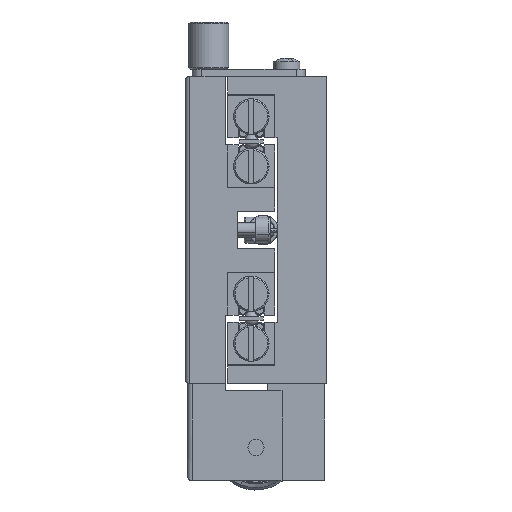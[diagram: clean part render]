
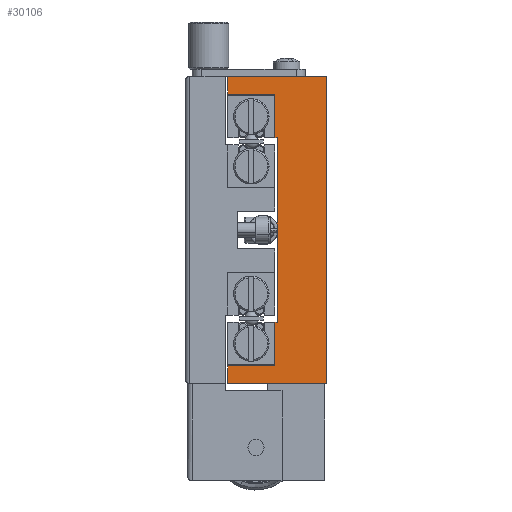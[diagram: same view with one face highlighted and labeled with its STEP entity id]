
A CAD part, left-side view. The second image highlights one B-rep face of the part: STEP entity #30106.
In plain terms, the highlighted planar face has unit normal (-1, 0, 0).
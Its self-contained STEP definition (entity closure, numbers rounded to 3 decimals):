
#45 = LINE ( 'NONE', #21529, #27171 ) ;
#585 = EDGE_CURVE ( 'NONE', #45673, #34249, #21678, .T. ) ;
#1328 = VECTOR ( 'NONE', #8041, 1000. ) ;
#1355 = CARTESIAN_POINT ( 'NONE',  ( -38.503, 10.95, 31.737 ) ) ;
#2199 = VECTOR ( 'NONE', #22217, 1000. ) ;
#2612 = DIRECTION ( 'NONE',  ( 0., 0., 1. ) ) ;
#3021 = LINE ( 'NONE', #26647, #8006 ) ;
#3150 = AXIS2_PLACEMENT_3D ( 'NONE', #41902, #14691, #7120 ) ;
#3721 = VECTOR ( 'NONE', #43308, 1000. ) ;
#4197 = EDGE_CURVE ( 'NONE', #15188, #45673, #3021, .T. ) ;
#5996 = EDGE_CURVE ( 'NONE', #34249, #16565, #13414, .T. ) ;
#6417 = VECTOR ( 'NONE', #32992, 1000. ) ;
#6447 = EDGE_CURVE ( 'NONE', #44148, #6780, #45, .T. ) ;
#6525 = PLANE ( 'NONE',  #3150 ) ;
#6780 = VERTEX_POINT ( 'NONE', #16567 ) ;
#7020 = VECTOR ( 'NONE', #41711, 1000. ) ;
#7103 = LINE ( 'NONE', #37740, #30362 ) ;
#7120 = DIRECTION ( 'NONE',  ( 0., 0., -1. ) ) ;
#7491 = CARTESIAN_POINT ( 'NONE',  ( -38.503, -0.05, -29.513 ) ) ;
#7629 = CARTESIAN_POINT ( 'NONE',  ( -38.503, 10.95, 31.737 ) ) ;
#7647 = LINE ( 'NONE', #7629, #3721 ) ;
#7680 = ORIENTED_EDGE ( 'NONE', *, *, #4197, .F. ) ;
#8006 = VECTOR ( 'NONE', #30223, 1000. ) ;
#8041 = DIRECTION ( 'NONE',  ( 0., -1., 0. ) ) ;
#8252 = VERTEX_POINT ( 'NONE', #33402 ) ;
#9280 = FACE_OUTER_BOUND ( 'NONE', #42018, .T. ) ;
#9949 = ORIENTED_EDGE ( 'NONE', *, *, #20999, .F. ) ;
#10415 = VECTOR ( 'NONE', #43833, 1000. ) ;
#10574 = VECTOR ( 'NONE', #35564, 1000. ) ;
#10864 = ORIENTED_EDGE ( 'NONE', *, *, #5996, .F. ) ;
#11290 = CARTESIAN_POINT ( 'NONE',  ( -38.503, 20.95, -29.513 ) ) ;
#11399 = CARTESIAN_POINT ( 'NONE',  ( -38.503, 10.95, 22.487 ) ) ;
#11522 = LINE ( 'NONE', #19127, #10415 ) ;
#11674 = CARTESIAN_POINT ( 'NONE',  ( -38.503, 10.95, -25.763 ) ) ;
#11766 = CARTESIAN_POINT ( 'NONE',  ( -38.503, 20.95, -29.513 ) ) ;
#11814 = CARTESIAN_POINT ( 'NONE',  ( -38.503, 10.95, -16.513 ) ) ;
#13391 = EDGE_CURVE ( 'NONE', #21051, #44148, #7647, .T. ) ;
#13414 = LINE ( 'NONE', #35781, #36620 ) ;
#14691 = DIRECTION ( 'NONE',  ( 1., 0., 0. ) ) ;
#14828 = EDGE_CURVE ( 'NONE', #45120, #32486, #34613, .T. ) ;
#14892 = ORIENTED_EDGE ( 'NONE', *, *, #41405, .F. ) ;
#15188 = VERTEX_POINT ( 'NONE', #27573 ) ;
#15887 = ORIENTED_EDGE ( 'NONE', *, *, #13391, .F. ) ;
#16565 = VERTEX_POINT ( 'NONE', #38209 ) ;
#16567 = CARTESIAN_POINT ( 'NONE',  ( -38.503, 20.95, 31.737 ) ) ;
#16753 = CARTESIAN_POINT ( 'NONE',  ( -38.503, 20.95, -29.513 ) ) ;
#18156 = DIRECTION ( 'NONE',  ( 0., -1., 0. ) ) ;
#19127 = CARTESIAN_POINT ( 'NONE',  ( -38.503, 10.45, -16.513 ) ) ;
#20999 = EDGE_CURVE ( 'NONE', #16565, #8252, #11522, .T. ) ;
#21051 = VERTEX_POINT ( 'NONE', #44305 ) ;
#21529 = CARTESIAN_POINT ( 'NONE',  ( -38.503, 20.95, 31.737 ) ) ;
#21678 = LINE ( 'NONE', #11674, #40478 ) ;
#22217 = DIRECTION ( 'NONE',  ( 0., 1., 0. ) ) ;
#23198 = VERTEX_POINT ( 'NONE', #7491 ) ;
#24459 = ORIENTED_EDGE ( 'NONE', *, *, #585, .F. ) ;
#26647 = CARTESIAN_POINT ( 'NONE',  ( -38.503, 20.95, -25.763 ) ) ;
#27171 = VECTOR ( 'NONE', #39887, 1000. ) ;
#27499 = EDGE_CURVE ( 'NONE', #8252, #21051, #44826, .T. ) ;
#27573 = CARTESIAN_POINT ( 'NONE',  ( -38.503, 20.95, -25.763 ) ) ;
#29294 = CARTESIAN_POINT ( 'NONE',  ( -38.503, 20.95, 35.487 ) ) ;
#30106 = ADVANCED_FACE ( 'NONE', ( #9280 ), #6525, .F. ) ;
#30223 = DIRECTION ( 'NONE',  ( 0., -1., 0. ) ) ;
#30362 = VECTOR ( 'NONE', #2612, 1000. ) ;
#31886 = EDGE_CURVE ( 'NONE', #32959, #23198, #36754, .T. ) ;
#32486 = VERTEX_POINT ( 'NONE', #44897 ) ;
#32514 = DIRECTION ( 'NONE',  ( 0., 0., 1. ) ) ;
#32959 = VERTEX_POINT ( 'NONE', #11766 ) ;
#32992 = DIRECTION ( 'NONE',  ( 0., -1., 0. ) ) ;
#33402 = CARTESIAN_POINT ( 'NONE',  ( -38.503, 10.45, 22.487 ) ) ;
#34249 = VERTEX_POINT ( 'NONE', #11814 ) ;
#34613 = LINE ( 'NONE', #29294, #6417 ) ;
#35564 = DIRECTION ( 'NONE',  ( 0., 0., 1. ) ) ;
#35758 = LINE ( 'NONE', #45865, #7020 ) ;
#35781 = CARTESIAN_POINT ( 'NONE',  ( -38.503, 10.95, -16.513 ) ) ;
#36570 = LINE ( 'NONE', #16753, #10574 ) ;
#36620 = VECTOR ( 'NONE', #18156, 1000. ) ;
#36754 = LINE ( 'NONE', #11290, #1328 ) ;
#37221 = ORIENTED_EDGE ( 'NONE', *, *, #31886, .T. ) ;
#37740 = CARTESIAN_POINT ( 'NONE',  ( -38.503, 20.95, -29.513 ) ) ;
#38137 = ORIENTED_EDGE ( 'NONE', *, *, #42502, .T. ) ;
#38209 = CARTESIAN_POINT ( 'NONE',  ( -38.503, 10.45, -16.513 ) ) ;
#38368 = CARTESIAN_POINT ( 'NONE',  ( -38.503, 10.95, -25.763 ) ) ;
#38920 = ORIENTED_EDGE ( 'NONE', *, *, #14828, .F. ) ;
#39009 = CARTESIAN_POINT ( 'NONE',  ( -38.503, 20.95, 35.487 ) ) ;
#39887 = DIRECTION ( 'NONE',  ( 0., 1., 0. ) ) ;
#40478 = VECTOR ( 'NONE', #32514, 1000. ) ;
#41405 = EDGE_CURVE ( 'NONE', #6780, #45120, #7103, .T. ) ;
#41711 = DIRECTION ( 'NONE',  ( 0., 0., 1. ) ) ;
#41902 = CARTESIAN_POINT ( 'NONE',  ( -38.503, 20.95, -29.513 ) ) ;
#42018 = EDGE_LOOP ( 'NONE', ( #14892, #45628, #15887, #45269, #9949, #10864, #24459, #7680, #44726, #37221, #38137, #38920 ) ) ;
#42502 = EDGE_CURVE ( 'NONE', #23198, #32486, #35758, .T. ) ;
#43308 = DIRECTION ( 'NONE',  ( 0., 0., 1. ) ) ;
#43833 = DIRECTION ( 'NONE',  ( 0., 0., 1. ) ) ;
#44148 = VERTEX_POINT ( 'NONE', #1355 ) ;
#44305 = CARTESIAN_POINT ( 'NONE',  ( -38.503, 10.95, 22.487 ) ) ;
#44726 = ORIENTED_EDGE ( 'NONE', *, *, #45716, .F. ) ;
#44826 = LINE ( 'NONE', #11399, #2199 ) ;
#44897 = CARTESIAN_POINT ( 'NONE',  ( -38.503, -0.05, 35.487 ) ) ;
#45120 = VERTEX_POINT ( 'NONE', #39009 ) ;
#45269 = ORIENTED_EDGE ( 'NONE', *, *, #27499, .F. ) ;
#45628 = ORIENTED_EDGE ( 'NONE', *, *, #6447, .F. ) ;
#45673 = VERTEX_POINT ( 'NONE', #38368 ) ;
#45716 = EDGE_CURVE ( 'NONE', #32959, #15188, #36570, .T. ) ;
#45865 = CARTESIAN_POINT ( 'NONE',  ( -38.503, -0.05, -29.513 ) ) ;
